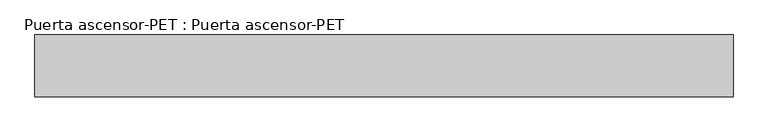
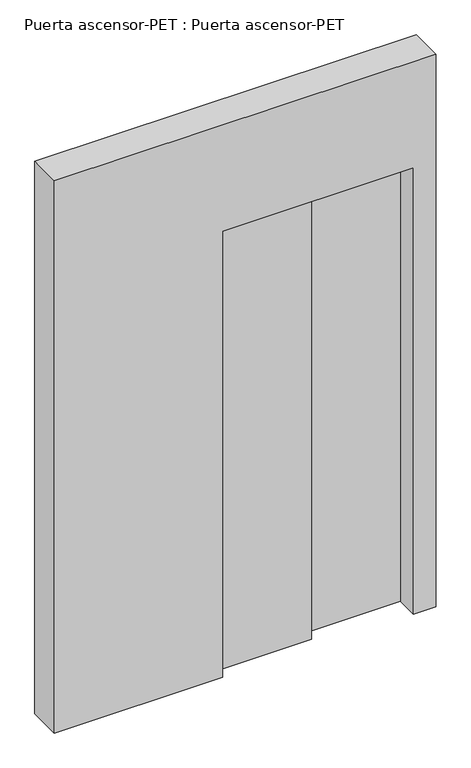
"""IFC4 building model written with IfcOpenShell, lengths in millimetres: furniture geometry, Puerta ascensor-PET : Puerta ascensor-PET."""

from ifc_helpers import new_model, si_unit, origin, origin_with_axes, place, context, project, spatial, polyline, outline, extrude, faceted_brep, source, transform, mapped, element, save


def puerta_ascensor_pet_puerta_ascensor_pet_5d3d87b6(model_context):
    return source(origin(), model_context, "Body", "SolidModel", [
        extrude(outline(polyline([(325.0, -100.0), (-150.0, -100.0), (-150.0, -50.0), (325.0, -50.0), (325.0, -100.0)])), origin_with_axes(), (0.0, 0.0, 1.0), 2100.0),
        extrude(outline(polyline([(750.0, -50.0), (275.0, -50.0), (275.0, 0.0), (750.0, 0.0), (750.0, -50.0)])), origin_with_axes(), (0.0, 0.0, 1.0), 2100.0),
        faceted_brep([(850.0, -150.0, 2600.0), (-850.0, -150.0, 2600.0), (-850.0, -150.0, 0.0), (-100.0, -150.0, 0.0), (-100.0, -150.0, 2100.0), (750.0, -150.0, 2100.0), (750.0, -150.0, 0.0), (850.0, -150.0, 0.0), (-850.0, 0.0, 2600.0), (-850.0, 0.0, 0.0), (-750.0, 0.0, 0.0), (-750.0, -100.0, 0.0), (-100.0, -100.0, 0.0), (-100.0, -100.0, 2100.0), (750.0, 0.0, 2100.0), (750.0, 0.0, 0.0), (850.0, 0.0, 0.0), (850.0, 0.0, 2600.0), (-750.0, 0.0, 2100.0), (-750.0, -100.0, 2100.0)], [[[0, 1, 2, 3, 4, 5, 6, 7]], [[2, 1, 8, 9]], [[3, 2, 9, 10, 11, 12]], [[4, 3, 12, 13]], [[6, 5, 14, 15]], [[7, 6, 15, 16]], [[0, 7, 16, 17]], [[17, 16, 15, 14, 18, 10, 9, 8]], [[10, 18, 19, 11]], [[13, 12, 11, 19]], [[1, 0, 17, 8]], [[18, 14, 5, 4, 13, 19]]]),
    ])


if __name__ == "__main__":
    model = new_model("IFC4")
    model_context = context("Model", 3, world=origin())
    ifc_project = project(units=[si_unit("LENGTHUNIT", "METRE", prefix="MILLI")], contexts=[model_context])
    site = spatial("IfcSite", under=ifc_project)
    building = spatial("IfcBuilding", under=site)
    placement = place(None, origin())
    puerta_ascensor_pet_puerta_ascensor_pet_shape = puerta_ascensor_pet_puerta_ascensor_pet_5d3d87b6(model_context)
    element("IfcFurniture", 1, ObjectType="Puerta ascensor-PET : Puerta ascensor-PET", at=placement, inside=building, context=model_context, shape_type="MappedRepresentation", body=[
        mapped(puerta_ascensor_pet_puerta_ascensor_pet_shape, transform((0.0, 0.0, 0.0), x_axis=(1.0, 0.0, 0.0), y_axis=(0.0, 1.0, 0.0), z_axis=(0.0, 0.0, 1.0))),
    ])
    save(model, "model.ifc")
